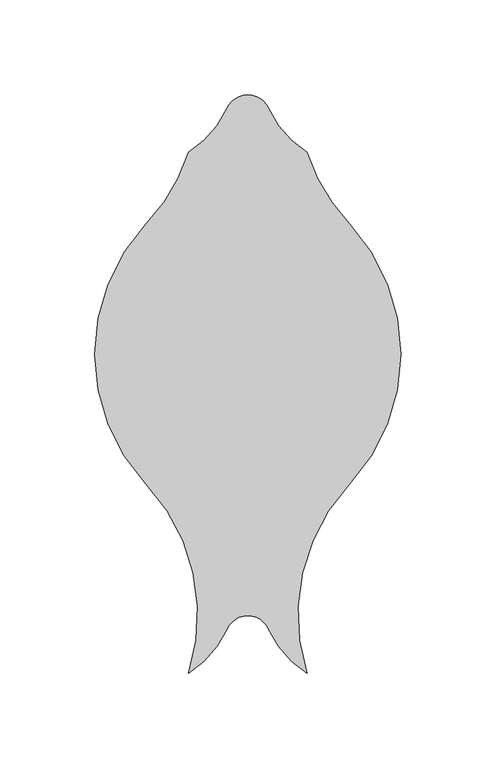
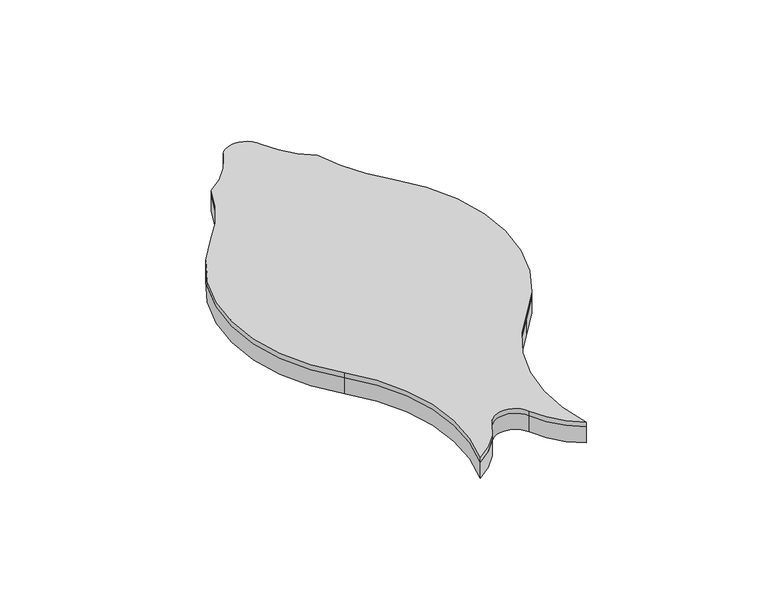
"""IFC4 building model written with IfcOpenShell, lengths in millimetres: proxy geometry, FilzFelt_Fish_Block : Fish Block."""

from ifc_helpers import new_model, si_unit, frame, origin, place, context, project, spatial, polyline, circle_curve, source, transform, mapped, element, save
from ifc_brep_helpers import plane_surface, cylinder_surface, revolved_surface, advanced_brep


def specialty_equipment_90dfa3fd(model_context):
    return source(origin(), model_context, "Body", "AdvancedBrep", [
        advanced_brep(
        [(53.5486457, 68.6120133, 10.0210937), (53.5486457, -68.6120133, 10.0210937), (31.2619065, -168.1141956, 10.0210937), (11.0103348, -145.0347036, 10.0210937), (-11.0103348, -145.0347036, 10.0210937), (-31.2619065, -168.1141956, 10.0210937), (-53.5486457, -68.6120133, 10.0210937), (-80.7142226, 0.0, 10.0210937), (-53.5486457, 68.6120133, 10.0210937), (-31.2619065, 106.3338576, 10.0210937), (-11.0103348, 129.4133496, 10.0210937), (11.0103348, 129.4133496, 10.0210937), (31.2619065, 106.3338576, 10.0210937), (53.5486457, 68.6120133, 12.9976563), (31.2619065, 106.3338576, 12.9976563), (11.0103348, 129.4133496, 12.9976563), (0.0, 136.5838795, 12.9976563), (-11.0103348, 129.4133496, 12.9976563), (-31.2619065, 106.3338576, 12.9976563), (-53.5486457, 68.6120133, 12.9976563), (-80.7142226, 0.0, 12.9976563), (-53.5486457, -68.6120133, 12.9976563), (-31.2619065, -168.1141956, 12.9976563), (-11.0103348, -145.0347036, 12.9976563), (11.0103348, -145.0347036, 12.9976563), (31.2619065, -168.1141956, 12.9976563), (53.5486457, -68.6120133, 12.9976563), (80.7142226, 0.0, 12.9976563)],
        [
            (0, 1, circle_curve(frame((-19.5151403, 0.0, 10.0210937), z_axis=(0.0, 0.0, -1.0), x_axis=(-1.0, 0.0, 0.0)), 100.2293629)),
            (1, 2, circle_curve(frame((126.6124317, -137.2240266, 10.0210937), z_axis=(0.0, 0.0, 1.0), x_axis=(-1.0, 0.0, 0.0)), 100.2293629)),
            (2, 3, circle_curve(frame((57.9263497, -124.2921115, 10.0210937), z_axis=(0.0, 0.0, -1.0), x_axis=(-1.0, 0.0, 0.0)), 51.2968574)),
            (3, 4, circle_curve(frame((0.0, -149.9026124, 10.0210937), z_axis=(0.0, 0.0, 1.0), x_axis=(-1.0, 0.0, 0.0)), 12.0384388)),
            (4, 5, circle_curve(frame((-57.9263497, -124.2921115, 10.0210937), z_axis=(0.0, 0.0, -1.0), x_axis=(-1.0, 0.0, 0.0)), 51.2968574)),
            (5, 6, circle_curve(frame((-126.6124317, -137.2240266, 10.0210937), z_axis=(0.0, 0.0, 1.0), x_axis=(-1.0, 0.0, 0.0)), 100.2293629)),
            (6, 7, circle_curve(frame((19.5151403, 0.0, 10.0210937), z_axis=(0.0, 0.0, -1.0), x_axis=(-1.0, 0.0, 0.0)), 100.2293629)),
            (7, 8, circle_curve(frame((19.5151403, 0.0, 10.0210937), z_axis=(0.0, 0.0, -1.0), x_axis=(-1.0, 0.0, 0.0)), 100.2293629)),
            (8, 9, circle_curve(frame((-126.6124317, 137.2240266, 10.0210937), z_axis=(0.0, 0.0, 1.0), x_axis=(-1.0, 0.0, 0.0)), 100.2293629)),
            (9, 10, circle_curve(frame((-57.9263497, 150.1559416, 10.0210937), z_axis=(0.0, 0.0, 1.0), x_axis=(-1.0, 0.0, 0.0)), 51.2968574)),
            (10, 11, circle_curve(frame((0.0, 124.5454408, 10.0210937), z_axis=(0.0, 0.0, -1.0), x_axis=(-1.0, 0.0, 0.0)), 12.0384388)),
            (11, 12, circle_curve(frame((57.9263497, 150.1559416, 10.0210937), z_axis=(0.0, 0.0, 1.0), x_axis=(-1.0, 0.0, 0.0)), 51.2968574)),
            (12, 0, circle_curve(frame((126.6124317, 137.2240266, 10.0210937), z_axis=(0.0, 0.0, 1.0), x_axis=(-1.0, 0.0, 0.0)), 100.2293629)),
            (13, 14, circle_curve(frame((126.6124317, 137.2240266, 12.9976563), z_axis=(0.0, 0.0, -1.0), x_axis=(-1.0, 0.0, 0.0)), 100.2293629)),
            (14, 15, circle_curve(frame((57.9263497, 150.1559416, 12.9976563), z_axis=(0.0, 0.0, -1.0), x_axis=(-1.0, 0.0, 0.0)), 51.2968574)),
            (15, 16, circle_curve(frame((0.0, 124.5454408, 12.9976563), z_axis=(0.0, 0.0, 1.0), x_axis=(-1.0, 0.0, 0.0)), 12.0384388)),
            (16, 17, circle_curve(frame((0.0, 124.5454408, 12.9976563), z_axis=(0.0, 0.0, 1.0), x_axis=(-1.0, 0.0, 0.0)), 12.0384388)),
            (17, 18, circle_curve(frame((-57.9263497, 150.1559416, 12.9976563), z_axis=(0.0, 0.0, -1.0), x_axis=(-1.0, 0.0, 0.0)), 51.2968574)),
            (18, 19, circle_curve(frame((-126.6124317, 137.2240266, 12.9976563), z_axis=(0.0, 0.0, -1.0), x_axis=(-1.0, 0.0, 0.0)), 100.2293629)),
            (19, 20, circle_curve(frame((19.5151403, 0.0, 12.9976563), z_axis=(0.0, 0.0, 1.0), x_axis=(-1.0, 0.0, 0.0)), 100.2293629)),
            (20, 21, circle_curve(frame((19.5151403, 0.0, 12.9976563), z_axis=(0.0, 0.0, 1.0), x_axis=(-1.0, 0.0, 0.0)), 100.2293629)),
            (21, 22, circle_curve(frame((-126.6124317, -137.2240266, 12.9976563), z_axis=(0.0, 0.0, -1.0), x_axis=(-1.0, 0.0, 0.0)), 100.2293629)),
            (22, 23, circle_curve(frame((-57.9263497, -124.2921115, 12.9976563), z_axis=(0.0, 0.0, 1.0), x_axis=(-1.0, 0.0, 0.0)), 51.2968574)),
            (23, 24, circle_curve(frame((0.0, -149.9026124, 12.9976563), z_axis=(0.0, 0.0, -1.0), x_axis=(-1.0, 0.0, 0.0)), 12.0384388)),
            (24, 25, circle_curve(frame((57.9263497, -124.2921115, 12.9976563), z_axis=(0.0, 0.0, 1.0), x_axis=(-1.0, 0.0, 0.0)), 51.2968574)),
            (25, 26, circle_curve(frame((126.6124317, -137.2240266, 12.9976563), z_axis=(0.0, 0.0, -1.0), x_axis=(-1.0, 0.0, 0.0)), 100.2293629)),
            (26, 27, circle_curve(frame((-19.5151403, 0.0, 12.9976563), z_axis=(0.0, 0.0, 1.0), x_axis=(-1.0, 0.0, 0.0)), 100.2293629)),
            (27, 13, circle_curve(frame((-19.5151403, 0.0, 12.9976563), z_axis=(0.0, 0.0, 1.0), x_axis=(-1.0, 0.0, 0.0)), 100.2293629)),
            (0, 13),
            (26, 1),
            (25, 2),
            (24, 3),
            (23, 4),
            (22, 5),
            (21, 6),
            (19, 8),
            (18, 9),
            (17, 10),
            (15, 11),
            (14, 12),
        ],
        [
            plane_surface(frame((0.0, 0.0, 10.0210937), z_axis=(0.0, 0.0, -1.0), x_axis=(0.0, -1.0, 0.0))),
            plane_surface(frame((0.0, 0.0, 12.9976563), z_axis=(0.0, 0.0, 1.0), x_axis=(0.0, -1.0, 0.0))),
            cylinder_surface(frame((-19.5151403, 0.0, 10.0210937), z_axis=(0.0, 0.0, -1.0), x_axis=(-1.0, 0.0, 0.0)), 100.2293629),
            revolved_surface(polyline([(26.383068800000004, -137.2240266, 12.9976563), (26.383068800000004, -137.2240266, 10.0210937)]), (126.6124317, -137.2240266, 10.0210937), (0.0, 0.0, 1.0)),
            cylinder_surface(frame((57.9263497, -124.2921115, 10.0210937), z_axis=(0.0, 0.0, -1.0), x_axis=(-1.0, 0.0, 0.0)), 51.2968574),
            revolved_surface(polyline([(-12.0384388, -149.9026124, 12.9976563), (-12.0384388, -149.9026124, 10.0210937)]), (0.0, -149.9026124, 10.0210937), (0.0, 0.0, 1.0)),
            cylinder_surface(frame((-57.9263497, -124.2921115, 10.0210937), z_axis=(0.0, 0.0, -1.0), x_axis=(-1.0, 0.0, 0.0)), 51.2968574),
            revolved_surface(polyline([(-226.84179460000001, -137.2240266, 12.9976563), (-226.84179460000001, -137.2240266, 10.0210937)]), (-126.6124317, -137.2240266, 10.0210937), (0.0, 0.0, 1.0)),
            cylinder_surface(frame((19.5151403, 0.0, 10.0210937), z_axis=(0.0, 0.0, -1.0), x_axis=(-1.0, 0.0, 0.0)), 100.2293629),
            revolved_surface(polyline([(-226.84179460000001, 137.2240266, 12.9976563), (-226.84179460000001, 137.2240266, 10.0210937)]), (-126.6124317, 137.2240266, 10.0210937), (0.0, 0.0, 1.0)),
            revolved_surface(polyline([(-109.2232071, 150.1559416, 12.9976563), (-109.2232071, 150.1559416, 10.0210937)]), (-57.9263497, 150.1559416, 10.0210937), (0.0, 0.0, 1.0)),
            cylinder_surface(frame((0.0, 124.5454408, 10.0210937), z_axis=(0.0, 0.0, -1.0), x_axis=(-1.0, 0.0, 0.0)), 12.0384388),
            revolved_surface(polyline([(6.629492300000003, 150.1559416, 12.9976563), (6.629492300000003, 150.1559416, 10.0210937)]), (57.9263497, 150.1559416, 10.0210937), (0.0, 0.0, 1.0)),
            revolved_surface(polyline([(26.383068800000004, 137.2240266, 12.9976563), (26.383068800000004, 137.2240266, 10.0210937)]), (126.6124317, 137.2240266, 10.0210937), (0.0, 0.0, 1.0)),
        ],
        [
            (0, [[1, 2, 3, 4, 5, 6, 7, 8, 9, 10, 11, 12, 13]]),
            (1, [[14, 15, 16, 17, 18, 19, 20, 21, 22, 23, 24, 25, 26, 27, 28]]),
            (2, [[-1, 29, -28, -27, 30]]),
            (3, [[-2, -30, -26, 31]]),
            (4, [[-3, -31, -25, 32]]),
            (5, [[-4, -32, -24, 33]]),
            (6, [[-5, -33, -23, 34]]),
            (7, [[-6, -34, -22, 35]]),
            (8, [[-35, -21, -20, 36, -8, -7]]),
            (9, [[-9, -36, -19, 37]]),
            (10, [[-10, -37, -18, 38]]),
            (11, [[-11, -38, -17, -16, 39]]),
            (12, [[-12, -39, -15, 40]]),
            (13, [[-13, -40, -14, -29]]),
        ],
    ),
        advanced_brep(
        [(31.2619065, -168.1141956, 0.0), (11.0103348, -145.0347036, 0.0), (-11.0103348, -145.0347036, 0.0), (-31.2619065, -168.1141956, 0.0), (-53.5486457, -68.6120133, 0.0), (-80.7142226, 0.0, 0.0), (-53.5486457, 68.6120133, 0.0), (-31.2619065, 106.3338576, 0.0), (-11.0103348, 129.4133496, 0.0), (0.0, 136.5838795, 0.0), (11.0103348, 129.4133496, 0.0), (31.2619065, 106.3338576, 0.0), (53.5486457, 68.6120133, 0.0), (80.7142226, 0.0, 0.0), (53.5486457, -68.6120133, 0.0), (31.2619065, -168.1141956, 10.0210937), (53.5486457, -68.6120133, 10.0210937), (53.5486457, 68.6120133, 10.0210937), (31.2619065, 106.3338576, 10.0210937), (11.0103348, 129.4133496, 10.0210937), (-11.0103348, 129.4133496, 10.0210937), (-31.2619065, 106.3338576, 10.0210937), (-53.5486457, 68.6120133, 10.0210937), (-80.7142226, 0.0, 10.0210937), (-53.5486457, -68.6120133, 10.0210937), (-31.2619065, -168.1141956, 10.0210937), (-11.0103348, -145.0347036, 10.0210937), (11.0103348, -145.0347036, 10.0210937)],
        [
            (0, 1, circle_curve(frame((57.9263497, -124.2921115, 0.0), z_axis=(0.0, 0.0, -1.0), x_axis=(-1.0, 0.0, 0.0)), 51.2968574)),
            (1, 2, circle_curve(frame((0.0, -149.9026124, 0.0), z_axis=(0.0, 0.0, 1.0), x_axis=(-1.0, 0.0, 0.0)), 12.0384388)),
            (2, 3, circle_curve(frame((-57.9263497, -124.2921115, 0.0), z_axis=(0.0, 0.0, -1.0), x_axis=(-1.0, 0.0, 0.0)), 51.2968574)),
            (3, 4, circle_curve(frame((-126.6124317, -137.2240266, 0.0), z_axis=(0.0, 0.0, 1.0), x_axis=(-1.0, 0.0, 0.0)), 100.2293629)),
            (4, 5, circle_curve(frame((19.5151403, 0.0, 0.0), z_axis=(0.0, 0.0, -1.0), x_axis=(-1.0, 0.0, 0.0)), 100.2293629)),
            (5, 6, circle_curve(frame((19.5151403, 0.0, 0.0), z_axis=(0.0, 0.0, -1.0), x_axis=(-1.0, 0.0, 0.0)), 100.2293629)),
            (6, 7, circle_curve(frame((-126.6124317, 137.2240266, 0.0), z_axis=(0.0, 0.0, 1.0), x_axis=(-1.0, 0.0, 0.0)), 100.2293629)),
            (7, 8, circle_curve(frame((-57.9263497, 150.1559416, 0.0), z_axis=(0.0, 0.0, 1.0), x_axis=(-1.0, 0.0, 0.0)), 51.2968574)),
            (8, 9, circle_curve(frame((0.0, 124.5454408, 0.0), z_axis=(0.0, 0.0, -1.0), x_axis=(-1.0, 0.0, 0.0)), 12.0384388)),
            (9, 10, circle_curve(frame((0.0, 124.5454408, 0.0), z_axis=(0.0, 0.0, -1.0), x_axis=(-1.0, 0.0, 0.0)), 12.0384388)),
            (10, 11, circle_curve(frame((57.9263497, 150.1559416, 0.0), z_axis=(0.0, 0.0, 1.0), x_axis=(-1.0, 0.0, 0.0)), 51.2968574)),
            (11, 12, circle_curve(frame((126.6124317, 137.2240266, 0.0), z_axis=(0.0, 0.0, 1.0), x_axis=(-1.0, 0.0, 0.0)), 100.2293629)),
            (12, 13, circle_curve(frame((-19.5151403, 0.0, 0.0), z_axis=(0.0, 0.0, -1.0), x_axis=(-1.0, 0.0, 0.0)), 100.2293629)),
            (13, 14, circle_curve(frame((-19.5151403, 0.0, 0.0), z_axis=(0.0, 0.0, -1.0), x_axis=(-1.0, 0.0, 0.0)), 100.2293629)),
            (14, 0, circle_curve(frame((126.6124317, -137.2240266, 0.0), z_axis=(0.0, 0.0, 1.0), x_axis=(-1.0, 0.0, 0.0)), 100.2293629)),
            (15, 16, circle_curve(frame((126.6124317, -137.2240266, 10.0210937), z_axis=(0.0, 0.0, -1.0), x_axis=(-1.0, 0.0, 0.0)), 100.2293629)),
            (16, 17, circle_curve(frame((-19.5151403, 0.0, 10.0210937), z_axis=(0.0, 0.0, 1.0), x_axis=(-1.0, 0.0, 0.0)), 100.2293629)),
            (17, 18, circle_curve(frame((126.6124317, 137.2240266, 10.0210937), z_axis=(0.0, 0.0, -1.0), x_axis=(-1.0, 0.0, 0.0)), 100.2293629)),
            (18, 19, circle_curve(frame((57.9263497, 150.1559416, 10.0210937), z_axis=(0.0, 0.0, -1.0), x_axis=(-1.0, 0.0, 0.0)), 51.2968574)),
            (19, 20, circle_curve(frame((0.0, 124.5454408, 10.0210937), z_axis=(0.0, 0.0, 1.0), x_axis=(-1.0, 0.0, 0.0)), 12.0384388)),
            (20, 21, circle_curve(frame((-57.9263497, 150.1559416, 10.0210937), z_axis=(0.0, 0.0, -1.0), x_axis=(-1.0, 0.0, 0.0)), 51.2968574)),
            (21, 22, circle_curve(frame((-126.6124317, 137.2240266, 10.0210937), z_axis=(0.0, 0.0, -1.0), x_axis=(-1.0, 0.0, 0.0)), 100.2293629)),
            (22, 23, circle_curve(frame((19.5151403, 0.0, 10.0210937), z_axis=(0.0, 0.0, 1.0), x_axis=(-1.0, 0.0, 0.0)), 100.2293629)),
            (23, 24, circle_curve(frame((19.5151403, 0.0, 10.0210937), z_axis=(0.0, 0.0, 1.0), x_axis=(-1.0, 0.0, 0.0)), 100.2293629)),
            (24, 25, circle_curve(frame((-126.6124317, -137.2240266, 10.0210937), z_axis=(0.0, 0.0, -1.0), x_axis=(-1.0, 0.0, 0.0)), 100.2293629)),
            (25, 26, circle_curve(frame((-57.9263497, -124.2921115, 10.0210937), z_axis=(0.0, 0.0, 1.0), x_axis=(-1.0, 0.0, 0.0)), 51.2968574)),
            (26, 27, circle_curve(frame((0.0, -149.9026124, 10.0210937), z_axis=(0.0, 0.0, -1.0), x_axis=(-1.0, 0.0, 0.0)), 12.0384388)),
            (27, 15, circle_curve(frame((57.9263497, -124.2921115, 10.0210937), z_axis=(0.0, 0.0, 1.0), x_axis=(-1.0, 0.0, 0.0)), 51.2968574)),
            (0, 15),
            (27, 1),
            (26, 2),
            (25, 3),
            (24, 4),
            (22, 6),
            (21, 7),
            (20, 8),
            (19, 10),
            (18, 11),
            (17, 12),
            (16, 14),
        ],
        [
            plane_surface(frame((0.0, 0.0, 0.0), z_axis=(0.0, 0.0, -1.0), x_axis=(0.0, -1.0, 0.0))),
            plane_surface(frame((0.0, 0.0, 10.0210937), z_axis=(0.0, 0.0, 1.0), x_axis=(0.0, -1.0, 0.0))),
            cylinder_surface(frame((57.9263497, -124.2921115, 0.0), z_axis=(0.0, 0.0, -1.0), x_axis=(-1.0, 0.0, 0.0)), 51.2968574),
            revolved_surface(polyline([(-12.0384388, -149.9026124, 10.0210937), (-12.0384388, -149.9026124, 0.0)]), (0.0, -149.9026124, 0.0), (0.0, 0.0, 1.0)),
            cylinder_surface(frame((-57.9263497, -124.2921115, 0.0), z_axis=(0.0, 0.0, -1.0), x_axis=(-1.0, 0.0, 0.0)), 51.2968574),
            revolved_surface(polyline([(-226.84179460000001, -137.2240266, 10.0210937), (-226.84179460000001, -137.2240266, 0.0)]), (-126.6124317, -137.2240266, 0.0), (0.0, 0.0, 1.0)),
            cylinder_surface(frame((19.5151403, 0.0, 0.0), z_axis=(0.0, 0.0, -1.0), x_axis=(-1.0, 0.0, 0.0)), 100.2293629),
            revolved_surface(polyline([(-226.84179460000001, 137.2240266, 10.0210937), (-226.84179460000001, 137.2240266, 0.0)]), (-126.6124317, 137.2240266, 0.0), (0.0, 0.0, 1.0)),
            revolved_surface(polyline([(-109.2232071, 150.1559416, 10.0210937), (-109.2232071, 150.1559416, 0.0)]), (-57.9263497, 150.1559416, 0.0), (0.0, 0.0, 1.0)),
            cylinder_surface(frame((0.0, 124.5454408, 0.0), z_axis=(0.0, 0.0, -1.0), x_axis=(-1.0, 0.0, 0.0)), 12.0384388),
            revolved_surface(polyline([(6.629492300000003, 150.1559416, 10.0210937), (6.629492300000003, 150.1559416, 0.0)]), (57.9263497, 150.1559416, 0.0), (0.0, 0.0, 1.0)),
            revolved_surface(polyline([(26.383068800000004, 137.2240266, 10.0210937), (26.383068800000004, 137.2240266, 0.0)]), (126.6124317, 137.2240266, 0.0), (0.0, 0.0, 1.0)),
            cylinder_surface(frame((-19.5151403, 0.0, 0.0), z_axis=(0.0, 0.0, -1.0), x_axis=(-1.0, 0.0, 0.0)), 100.2293629),
            revolved_surface(polyline([(26.383068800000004, -137.2240266, 10.0210937), (26.383068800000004, -137.2240266, 0.0)]), (126.6124317, -137.2240266, 0.0), (0.0, 0.0, 1.0)),
        ],
        [
            (0, [[1, 2, 3, 4, 5, 6, 7, 8, 9, 10, 11, 12, 13, 14, 15]]),
            (1, [[16, 17, 18, 19, 20, 21, 22, 23, 24, 25, 26, 27, 28]]),
            (2, [[-1, 29, -28, 30]]),
            (3, [[-2, -30, -27, 31]]),
            (4, [[-3, -31, -26, 32]]),
            (5, [[-4, -32, -25, 33]]),
            (6, [[-33, -24, -23, 34, -6, -5]]),
            (7, [[-7, -34, -22, 35]]),
            (8, [[-8, -35, -21, 36]]),
            (9, [[-20, 37, -10, -9, -36]]),
            (10, [[-11, -37, -19, 38]]),
            (11, [[-12, -38, -18, 39]]),
            (12, [[-17, 40, -14, -13, -39]]),
            (13, [[-15, -40, -16, -29]]),
        ],
    ),
    ])


if __name__ == "__main__":
    model = new_model("IFC4")
    model_context = context("Model", 3, world=origin())
    ifc_project = project(units=[si_unit("LENGTHUNIT", "METRE", prefix="MILLI")], contexts=[model_context])
    site = spatial("IfcSite", under=ifc_project)
    building = spatial("IfcBuilding", under=site)
    placement = place(None, origin())
    specialty_equipment_shape = specialty_equipment_90dfa3fd(model_context)
    element("IfcBuildingElementProxy", 1, Name="FilzFelt_Fish_Block : Fish Block", ObjectType="FilzFelt_Fish_Block : Fish Block", at=placement, inside=building, context=model_context, shape_type="MappedRepresentation", body=[
        mapped(specialty_equipment_shape, transform((0.0, 0.0, 0.0), x_axis=(1.0, 0.0, 0.0), y_axis=(0.0, 1.0, 0.0), z_axis=(0.0, 0.0, 1.0))),
    ])
    save(model, "model.ifc")
